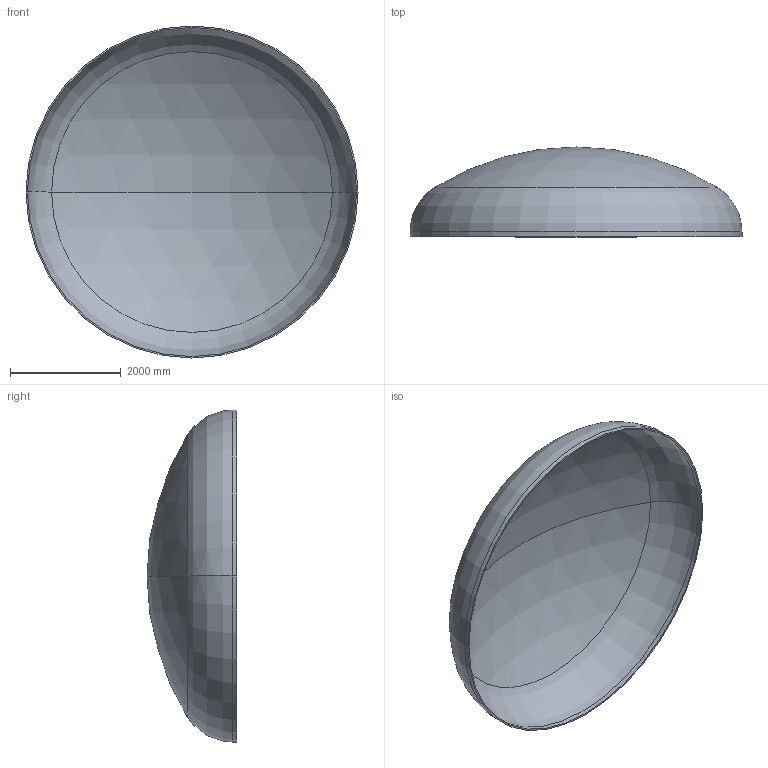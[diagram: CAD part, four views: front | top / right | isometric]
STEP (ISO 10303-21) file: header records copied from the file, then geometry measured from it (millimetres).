
FILE_DESCRIPTION (( 'STEP AP203' ), '1' );
FILE_NAME ('DIN 28013 Korbbogenform_-_Boden DIN 28013 - 6000 x 85 - I - s=26.step', '2016-07-04T10:36:18', ( '' ), ( '' ), 'SwSTEP 2.0', 'SolidWorks 2013', '' );
FILE_SCHEMA (( 'CONFIG_CONTROL_DESIGN' ));
Length unit declared in the file: millimetre
Products named in the file (1): DIN 28013 Korbbogenform_-_Boden DIN 28013 - 6000 x 85 - I - s=26
Bounding box: 6000 x 1622.05 x 6000 mm (x, y, z)
Volume: 1054068589.5 mm3; surface area: 81571547.4 mm2
Topology: 1 solids, 1 shells, 13 faces, 24 edges, 14 vertices
Faces by surface type: torus 4, cylinder 4, sphere 4, plane 1
Entity records: 407 total; most frequent: DIRECTION 72, CARTESIAN_POINT 52, ORIENTED_EDGE 48, AXIS2_PLACEMENT_3D 34, EDGE_CURVE 24, CIRCLE 20, VERTEX_POINT 14, EDGE_LOOP 14
